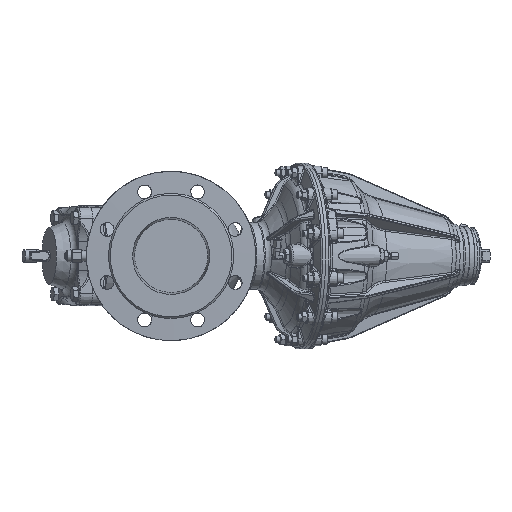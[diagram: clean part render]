
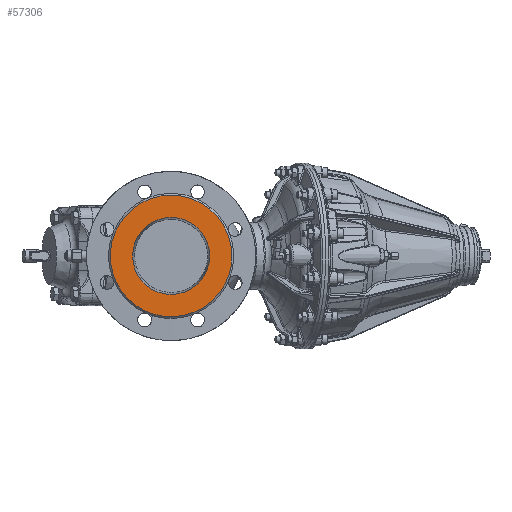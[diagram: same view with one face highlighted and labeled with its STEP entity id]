
A CAD part, left-side view. The second image highlights one B-rep face of the part: STEP entity #57306.
In plain terms, the highlighted planar face has unit normal (-1, 0, 0).
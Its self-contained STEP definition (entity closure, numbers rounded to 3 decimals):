
#57275 = EDGE_LOOP ( 'NONE', ( #57319 ) ) ;
#57283 = EDGE_CURVE ( 'NONE', #123490, #123490, #120044, .T. ) ;
#57293 = EDGE_CURVE ( 'NONE', #123487, #123487, #120102, .T. ) ;
#57306 = ADVANCED_FACE ( 'NONE', ( #120497, #120495 ), #120496, .T. ) ;
#57319 = ORIENTED_EDGE ( 'NONE', *, *, #57283, .T. ) ;
#57321 = EDGE_LOOP ( 'NONE', ( #57326 ) ) ;
#57326 = ORIENTED_EDGE ( 'NONE', *, *, #57293, .F. ) ;
#120040 = AXIS2_PLACEMENT_3D ( 'NONE', #120115, #120113, #120112 ) ;
#120044 = CIRCLE ( 'NONE', #120040, 79. ) ;
#120082 = DIRECTION ( 'NONE',  ( 0., 0., 1. ) ) ;
#120084 = DIRECTION ( 'NONE',  ( -1., 0., 0. ) ) ;
#120085 = CARTESIAN_POINT ( 'NONE',  ( -162., 0., 0. ) ) ;
#120087 = AXIS2_PLACEMENT_3D ( 'NONE', #120085, #120084, #120082 ) ;
#120102 = CIRCLE ( 'NONE', #120087, 50. ) ;
#120112 = DIRECTION ( 'NONE',  ( 0., 0., 1. ) ) ;
#120113 = DIRECTION ( 'NONE',  ( -1., 0., 0. ) ) ;
#120115 = CARTESIAN_POINT ( 'NONE',  ( -162., 0., 0. ) ) ;
#120483 = DIRECTION ( 'NONE',  ( 0., 0., 1. ) ) ;
#120484 = DIRECTION ( 'NONE',  ( -1., 0., 0. ) ) ;
#120485 = CARTESIAN_POINT ( 'NONE',  ( -162., -50., 0. ) ) ;
#120486 = AXIS2_PLACEMENT_3D ( 'NONE', #120485, #120484, #120483 ) ;
#120495 = FACE_BOUND ( 'NONE', #57321, .T. ) ;
#120496 = PLANE ( 'NONE',  #120486 ) ;
#120497 = FACE_OUTER_BOUND ( 'NONE', #57275, .T. ) ;
#123482 = CARTESIAN_POINT ( 'NONE',  ( -162., 0., 50. ) ) ;
#123485 = CARTESIAN_POINT ( 'NONE',  ( -162., 0., 79. ) ) ;
#123487 = VERTEX_POINT ( 'NONE', #123482 ) ;
#123490 = VERTEX_POINT ( 'NONE', #123485 ) ;
